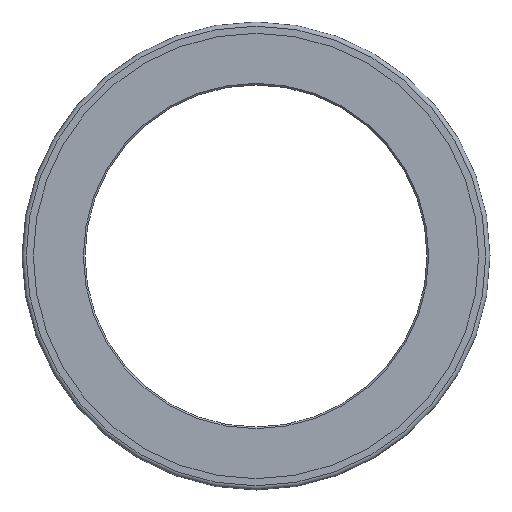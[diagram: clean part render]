
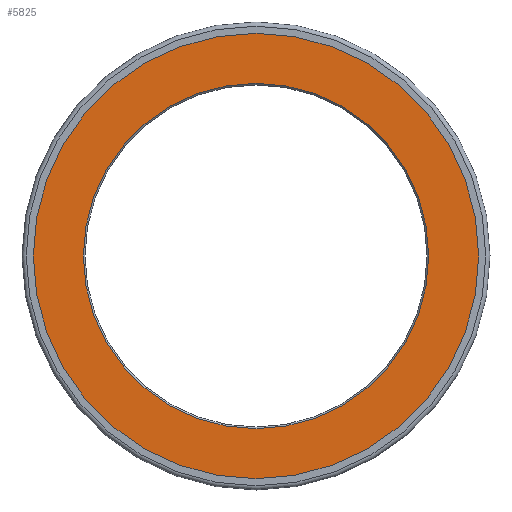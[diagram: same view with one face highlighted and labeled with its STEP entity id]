
A CAD part, left-side view. The second image highlights one B-rep face of the part: STEP entity #5825.
In plain terms, the highlighted planar face has unit normal (-1, 0, 0).
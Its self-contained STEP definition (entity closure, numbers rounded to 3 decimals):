
#766=PLANE('',#6215);
#943=FACE_BOUND('',#1392,.T.);
#1040=FACE_OUTER_BOUND('',#1391,.T.);
#1391=EDGE_LOOP('',(#3910));
#1392=EDGE_LOOP('',(#3911));
#1834=CIRCLE('',#6212,53.5);
#1836=CIRCLE('',#6216,69.);
#2321=VERTEX_POINT('',#8910);
#2323=VERTEX_POINT('',#8916);
#2980=EDGE_CURVE('',#2321,#2321,#1834,.T.);
#2982=EDGE_CURVE('',#2323,#2323,#1836,.T.);
#3910=ORIENTED_EDGE('',*,*,#2982,.F.);
#3911=ORIENTED_EDGE('',*,*,#2980,.F.);
#5825=ADVANCED_FACE('',(#1040,#943),#766,.T.);
#6212=AXIS2_PLACEMENT_3D('',#8911,#7114,#7115);
#6215=AXIS2_PLACEMENT_3D('',#8915,#7120,#7121);
#6216=AXIS2_PLACEMENT_3D('',#8917,#7122,#7123);
#7114=DIRECTION('center_axis',(-1.,0.,0.));
#7115=DIRECTION('ref_axis',(0.,-1.,0.));
#7120=DIRECTION('center_axis',(-1.,0.,0.));
#7121=DIRECTION('ref_axis',(0.,0.,1.));
#7122=DIRECTION('center_axis',(1.,0.,0.));
#7123=DIRECTION('ref_axis',(0.,0.,-1.));
#8910=CARTESIAN_POINT('',(-14.8,53.5,0.));
#8911=CARTESIAN_POINT('Origin',(-14.8,0.,0.));
#8915=CARTESIAN_POINT('Origin',(-14.8,69.,0.));
#8916=CARTESIAN_POINT('',(-14.8,69.,0.));
#8917=CARTESIAN_POINT('Origin',(-14.8,0.,0.));
